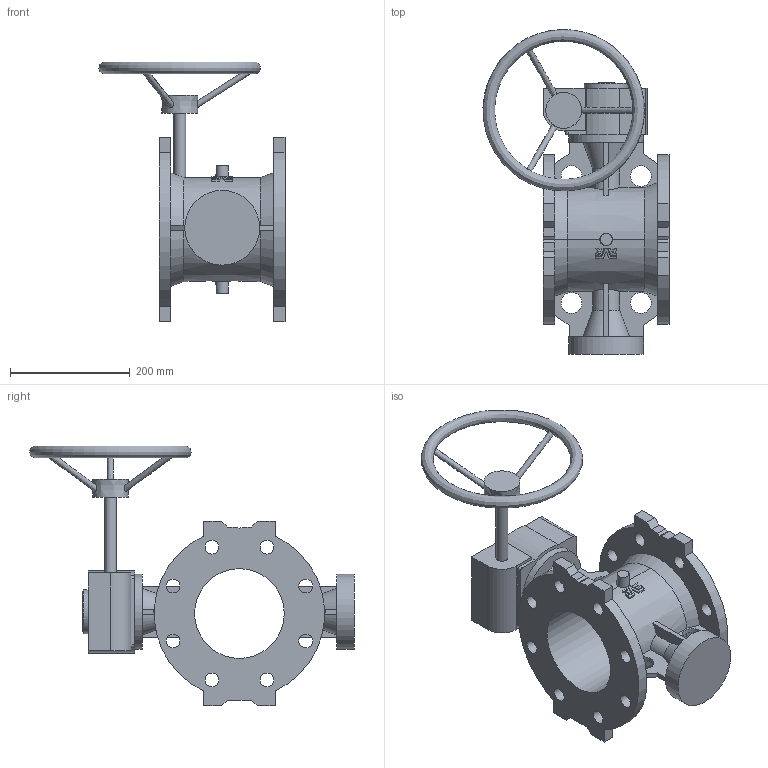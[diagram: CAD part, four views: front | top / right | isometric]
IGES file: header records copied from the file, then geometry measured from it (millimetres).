
Start section: SolidWorks IGES file using analytic representation for surfaces
Global section: file name: \\avksan2\techshare\PBM outline export from Enovia\O_756_118_DN150_1XX180XX_AA0.igs; native system: SolidWorks 2012; preprocessor: SolidWorks 2012; author: pbm; date: 190709.102545; units: millimetre
Bounding box: 310.9 x 542.47 x 434.5 mm (x, y, z)
Surface area: 674875.1 mm2 (no closed solid volume)
Topology: 0 solids, 0 shells, 204 faces, 1136 edges, 1074 vertices
Faces by surface type: bspline 129, revolution 75
